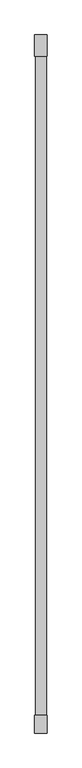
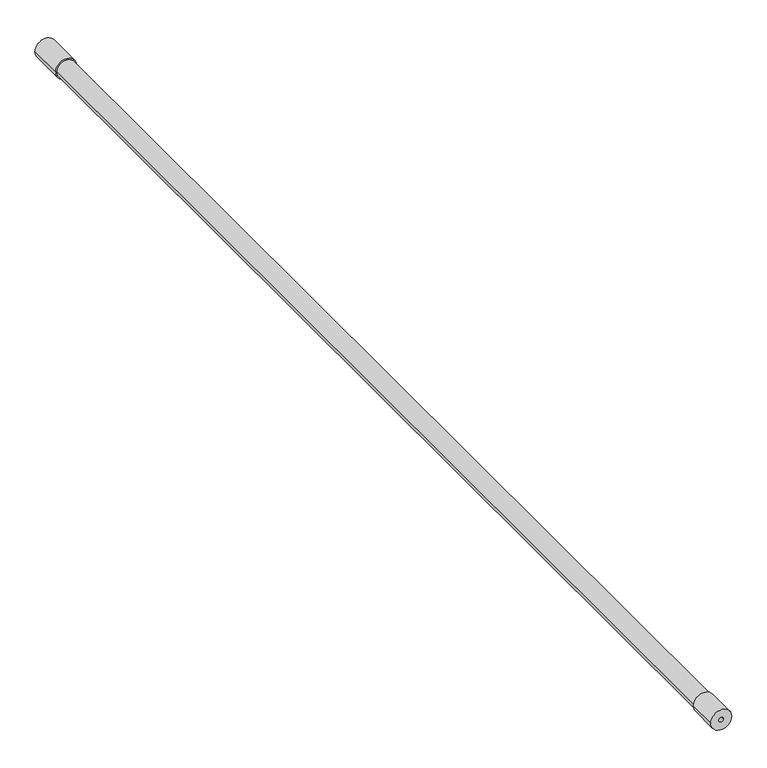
"""IFC4 building model written with IfcOpenShell, lengths in millimetres: proxy geometry, КНС_ШтангаИзоляционная_DKC : NF2000_Стеклопластик_2000 мм."""

from ifc_helpers import new_model, si_unit, point, frame, origin, origin_2d, place, context, project, spatial, circle_curve, trimmed, segment, composite_curve, outline, extrude, source, transform, mapped, element, save


def security_devices_41d0c0da(model_context):
    return source(origin(), model_context, "Body", "SweptSolid", [
        extrude(outline(composite_curve([segment(trimmed(circle_curve(origin_2d(), 18.0), [point((0.0, -18.0))], [point((0.0, 18.0))], False, "CARTESIAN"), True, "CONTINUOUS"), segment(trimmed(circle_curve(origin_2d(), 18.0), [point((0.0, 18.0))], [point((0.0, -18.0))], False, "CARTESIAN"), True, "CONTINUOUS")], self_intersect=False), holes=[composite_curve([segment(trimmed(circle_curve(origin_2d(), 4.0), [point((0.0, -4.0))], [point((0.0, 4.0))], True, "CARTESIAN"), True, "CONTINUOUS"), segment(trimmed(circle_curve(origin_2d(), 4.0), [point((0.0, 4.0))], [point((0.0, -4.0))], True, "CARTESIAN"), True, "CONTINUOUS")], self_intersect=False)]), frame((0.0, 1939.0, 0.0), z_axis=(0.0, 1.0, 0.0), x_axis=(0.0, 0.0, 1.0)), (0.0, 0.0, 1.0), 61.0),
        extrude(outline(composite_curve([segment(trimmed(circle_curve(origin_2d(), 16.0), [point((0.0, -16.0))], [point((0.0, 16.0))], False, "CARTESIAN"), True, "CONTINUOUS"), segment(trimmed(circle_curve(origin_2d(), 16.0), [point((0.0, 16.0))], [point((0.0, -16.0))], False, "CARTESIAN"), True, "CONTINUOUS")], self_intersect=False)), frame((0.0, 51.0, 0.0), z_axis=(0.0, 1.0, 0.0), x_axis=(0.0, 0.0, 1.0)), (0.0, 0.0, 1.0), 1888.0),
        extrude(outline(composite_curve([segment(trimmed(circle_curve(origin_2d(), 18.0), [point((0.0, -18.0))], [point((0.0, 18.0))], False, "CARTESIAN"), True, "CONTINUOUS"), segment(trimmed(circle_curve(origin_2d(), 18.0), [point((0.0, 18.0))], [point((0.0, -18.0))], False, "CARTESIAN"), True, "CONTINUOUS")], self_intersect=False), holes=[composite_curve([segment(trimmed(circle_curve(origin_2d(), 4.0), [point((0.0, -4.0))], [point((0.0, 4.0))], True, "CARTESIAN"), True, "CONTINUOUS"), segment(trimmed(circle_curve(origin_2d(), 4.0), [point((0.0, 4.0))], [point((0.0, -4.0))], True, "CARTESIAN"), True, "CONTINUOUS")], self_intersect=False)]), frame((0.0, 0.0, 0.0), z_axis=(0.0, 1.0, 0.0), x_axis=(0.0, 0.0, 1.0)), (0.0, 0.0, 1.0), 51.0),
    ])


if __name__ == "__main__":
    model = new_model("IFC4")
    model_context = context("Model", 3, world=origin())
    ifc_project = project(units=[si_unit("LENGTHUNIT", "METRE", prefix="MILLI")], contexts=[model_context])
    site = spatial("IfcSite", under=ifc_project)
    building = spatial("IfcBuilding", under=site)
    placement = place(None, origin())
    security_devices_shape = security_devices_41d0c0da(model_context)
    element("IfcBuildingElementProxy", 1, Name="КНС_ШтангаИзоляционная_DKC : NF2000_Стеклопластик_2000 мм", ObjectType="КНС_ШтангаИзоляционная_DKC : NF2000_Стеклопластик_2000 мм", at=placement, inside=building, context=model_context, shape_type="MappedRepresentation", body=[
        mapped(security_devices_shape, transform((0.0, 0.0, 0.0), x_axis=(1.0, 0.0, 0.0), y_axis=(0.0, 1.0, 0.0), z_axis=(0.0, 0.0, 1.0))),
    ])
    save(model, "model.ifc")
